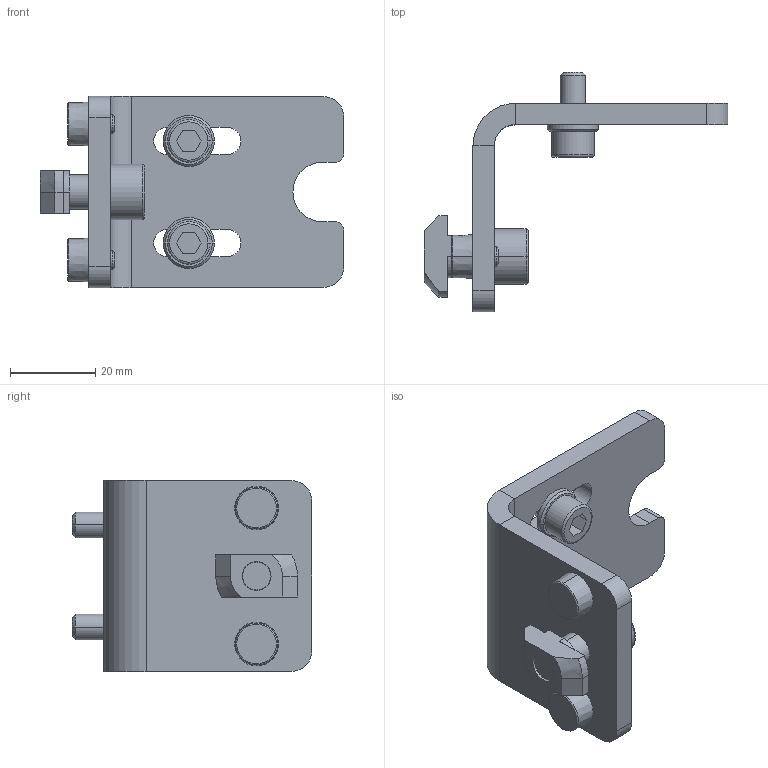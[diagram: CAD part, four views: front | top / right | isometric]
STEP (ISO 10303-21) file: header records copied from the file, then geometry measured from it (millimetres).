
FILE_DESCRIPTION (( 'STEP AP203' ), '1' );
FILE_NAME ('Asutec_75000119.STEP', '2024-06-21T08:18:54', ( '' ), ( '' ), 'SwSTEP 2.0', 'SolidWorks 2020', '' );
FILE_SCHEMA (( 'CONFIG_CONTROL_DESIGN' ));
Length unit declared in the file: millimetre
Products named in the file (1): Asutec_75000119
Bounding box: 71.5 x 56.4 x 45 mm (x, y, z)
Volume: 25391.7 mm3; surface area: 13122.6 mm2
Topology: 3 solids, 3 shells, 136 faces, 311 edges, 196 vertices
Faces by surface type: plane 66, cylinder 40, cone 20, torus 10
Entity records: 3918 total; most frequent: DIRECTION 707, CARTESIAN_POINT 658, ORIENTED_EDGE 622, EDGE_CURVE 311, AXIS2_PLACEMENT_3D 261, VERTEX_POINT 196, LINE 185, VECTOR 185
